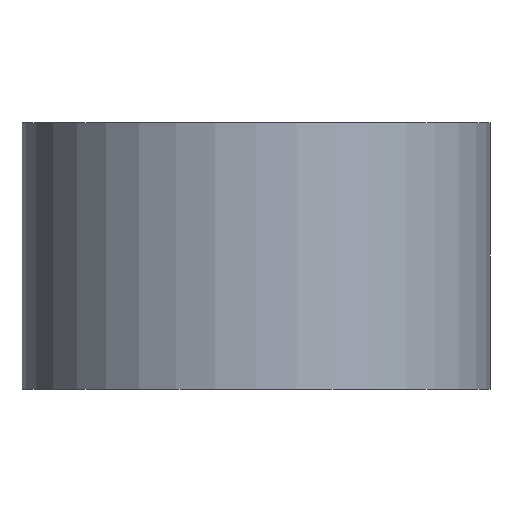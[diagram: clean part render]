
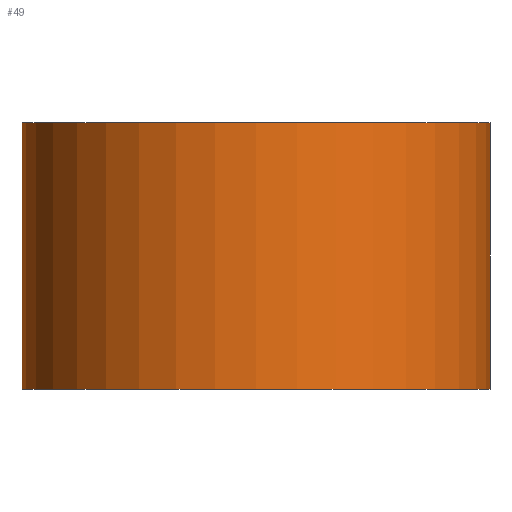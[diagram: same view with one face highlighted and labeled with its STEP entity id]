
A CAD part, front view. The second image highlights one B-rep face of the part: STEP entity #49.
In plain terms, the highlighted cylindrical face has radius 11.5 mm (diameter 23 mm), a full revolution.
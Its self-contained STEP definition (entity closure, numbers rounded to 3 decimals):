
#49=ADVANCED_FACE('',(#92,#93),#71,.T.);
#71=CYLINDRICAL_SURFACE('',#673,11.5);
#92=FACE_BOUND('',#146,.T.);
#93=FACE_BOUND('',#147,.T.);
#146=EDGE_LOOP('',(#200));
#147=EDGE_LOOP('',(#201));
#200=ORIENTED_EDGE('',*,*,#275,.T.);
#201=ORIENTED_EDGE('',*,*,#280,.T.);
#248=VERTEX_POINT('',#923);
#253=VERTEX_POINT('',#934);
#275=EDGE_CURVE('',#248,#248,#305,.T.);
#280=EDGE_CURVE('',#253,#253,#310,.T.);
#305=CIRCLE('',#665,11.5);
#310=CIRCLE('',#671,11.5);
#665=AXIS2_PLACEMENT_3D('',#922,#774,#775);
#671=AXIS2_PLACEMENT_3D('',#933,#786,#787);
#673=AXIS2_PLACEMENT_3D('',#936,#790,#791);
#774=DIRECTION('',(0.,0.,-1.));
#775=DIRECTION('',(1.,0.,0.));
#786=DIRECTION('',(0.,0.,1.));
#787=DIRECTION('',(1.,0.,0.));
#790=DIRECTION('',(0.,0.,1.));
#791=DIRECTION('',(1.,0.,0.));
#922=CARTESIAN_POINT('',(0.,0.,13.1));
#923=CARTESIAN_POINT('',(11.5,0.,13.1));
#933=CARTESIAN_POINT('',(0.,0.,0.));
#934=CARTESIAN_POINT('',(11.5,0.,0.));
#936=CARTESIAN_POINT('',(0.,0.,0.));
